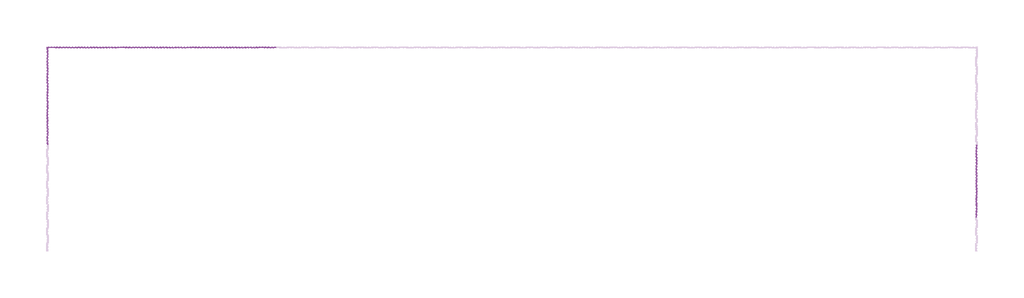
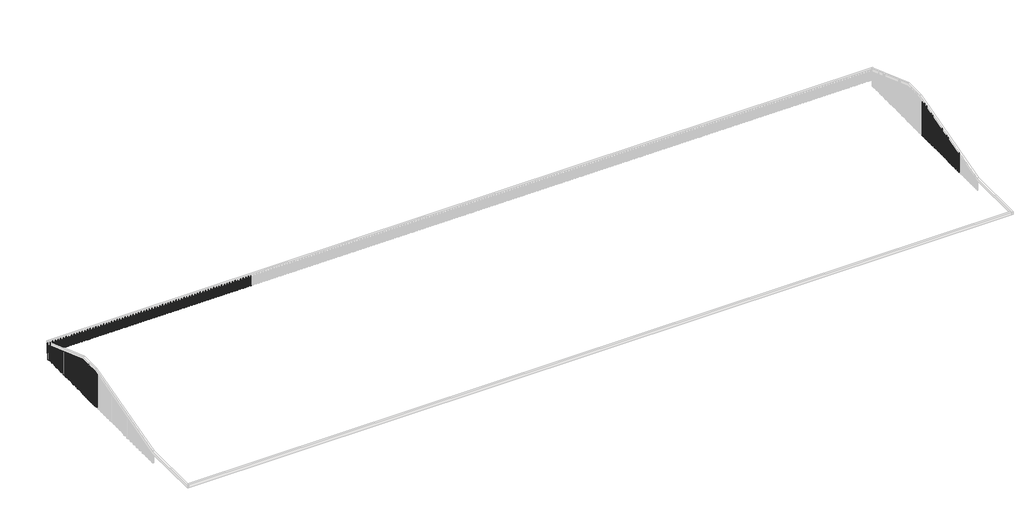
# One storey, part 4 of 6: 132 proxies.
"""IFC4 building model written with IfcOpenShell, lengths in millimetres."""

from ifc_helpers import new_model, si_unit, origin, place, context, project, spatial, transform, mapped, element, save
from components import generic_models_7553901d, generic_models_a74f638f, generic_models_eddb28b0, generic_models_b851e550, generic_models_f981eec5, generic_models_fa2cd2e8, generic_models_5c6d3e61, generic_models_5d25678b, generic_models_d380ba2e, generic_models_831c492c, generic_models_77be9fe8, generic_models_16d24312, generic_models_3141a809, generic_models_ca3dce07, generic_models_dd665d03, generic_models_896a7e0f

model = new_model("IFC4")

# Units and contexts
model_context = context("Model", 3, world=origin())
ifc_project = project(units=[si_unit("LENGTHUNIT", "METRE", prefix="MILLI")], contexts=[model_context])

# Site, building, storey
site = spatial("IfcSite", under=ifc_project)
building = spatial("IfcBuilding", under=site)
storey = spatial("IfcBuildingStorey", under=building, Name="矢板", Elevation=0.0)

# Proxies
placement = place(None, origin())
generic_models_shape = generic_models_7553901d(model_context)
element("IfcBuildingElementProxy", 1, Name="鋼矢板10H型 : 鋼矢板10H型", ObjectType="鋼矢板10H型 : 鋼矢板10H型", at=placement, inside=storey, context=model_context, shape_type="MappedRepresentation", body=[
    mapped(generic_models_shape, transform((-60502.5, 28702.0, 7600.0), x_axis=(1.0, 0.0, 0.0), y_axis=(0.0, 1.0, 0.0), z_axis=(0.0, 0.0, 1.0))),
])
element("IfcBuildingElementProxy", 2, Name="鋼矢板10H型 : 鋼矢板10H型", ObjectType="鋼矢板10H型 : 鋼矢板10H型", at=placement, inside=storey, context=model_context, shape_type="MappedRepresentation", body=[
    mapped(generic_models_shape, transform((-61402.5, 28702.0, 7600.0), x_axis=(1.0, 0.0, 0.0), y_axis=(0.0, 1.0, 0.0), z_axis=(0.0, 0.0, 1.0))),
])
element("IfcBuildingElementProxy", 3, Name="鋼矢板10H型 : 鋼矢板10H型", ObjectType="鋼矢板10H型 : 鋼矢板10H型", at=placement, inside=storey, context=model_context, shape_type="MappedRepresentation", body=[
    mapped(generic_models_shape, transform((-62302.5, 28702.0, 7600.0), x_axis=(1.0, 0.0, 0.0), y_axis=(0.0, 1.0, 0.0), z_axis=(0.0, 0.0, 1.0))),
])
element("IfcBuildingElementProxy", 4, Name="鋼矢板10H型 : 鋼矢板10H型", ObjectType="鋼矢板10H型 : 鋼矢板10H型", at=placement, inside=storey, context=model_context, shape_type="MappedRepresentation", body=[
    mapped(generic_models_shape, transform((-63202.5, 28702.0, 7600.0), x_axis=(1.0, 0.0, 0.0), y_axis=(0.0, 1.0, 0.0), z_axis=(0.0, 0.0, 1.0))),
])
element("IfcBuildingElementProxy", 5, Name="鋼矢板10H型 : 鋼矢板10H型", ObjectType="鋼矢板10H型 : 鋼矢板10H型", at=placement, inside=storey, context=model_context, shape_type="MappedRepresentation", body=[
    mapped(generic_models_shape, transform((-64102.5, 28702.0, 7600.0), x_axis=(1.0, 0.0, 0.0), y_axis=(0.0, 1.0, 0.0), z_axis=(0.0, 0.0, 1.0))),
])
element("IfcBuildingElementProxy", 6, Name="鋼矢板10H型 : 鋼矢板10H型", ObjectType="鋼矢板10H型 : 鋼矢板10H型", at=placement, inside=storey, context=model_context, shape_type="MappedRepresentation", body=[
    mapped(generic_models_shape, transform((-65002.5, 28702.0, 7600.0), x_axis=(1.0, 0.0, 0.0), y_axis=(0.0, 1.0, 0.0), z_axis=(0.0, 0.0, 1.0))),
])
element("IfcBuildingElementProxy", 7, Name="鋼矢板10H型 : 鋼矢板10H型", ObjectType="鋼矢板10H型 : 鋼矢板10H型", at=placement, inside=storey, context=model_context, shape_type="MappedRepresentation", body=[
    mapped(generic_models_shape, transform((-65902.5, 28702.0, 7600.0), x_axis=(1.0, 0.0, 0.0), y_axis=(0.0, 1.0, 0.0), z_axis=(0.0, 0.0, 1.0))),
])
element("IfcBuildingElementProxy", 8, Name="鋼矢板10H型 : 鋼矢板10H型", ObjectType="鋼矢板10H型 : 鋼矢板10H型", at=placement, inside=storey, context=model_context, shape_type="MappedRepresentation", body=[
    mapped(generic_models_shape, transform((-66802.5, 28702.0, 7600.0), x_axis=(1.0, 0.0, 0.0), y_axis=(0.0, 1.0, 0.0), z_axis=(0.0, 0.0, 1.0))),
])
element("IfcBuildingElementProxy", 9, Name="鋼矢板10H型 : 鋼矢板10H型", ObjectType="鋼矢板10H型 : 鋼矢板10H型", at=placement, inside=storey, context=model_context, shape_type="MappedRepresentation", body=[
    mapped(generic_models_shape, transform((-67702.5, 28702.0, 7600.0), x_axis=(1.0, 0.0, 0.0), y_axis=(0.0, 1.0, 0.0), z_axis=(0.0, 0.0, 1.0))),
])
element("IfcBuildingElementProxy", 10, Name="鋼矢板10H型 : 鋼矢板10H型", ObjectType="鋼矢板10H型 : 鋼矢板10H型", at=placement, inside=storey, context=model_context, shape_type="MappedRepresentation", body=[
    mapped(generic_models_shape, transform((-68602.5, 28702.0, 7600.0), x_axis=(1.0, 0.0, 0.0), y_axis=(0.0, 1.0, 0.0), z_axis=(0.0, 0.0, 1.0))),
])
element("IfcBuildingElementProxy", 11, Name="鋼矢板10H型 : 鋼矢板10H型", ObjectType="鋼矢板10H型 : 鋼矢板10H型", at=placement, inside=storey, context=model_context, shape_type="MappedRepresentation", body=[
    mapped(generic_models_shape, transform((-69502.5, 28702.0, 7600.0), x_axis=(1.0, 0.0, 0.0), y_axis=(0.0, 1.0, 0.0), z_axis=(0.0, 0.0, 1.0))),
])
element("IfcBuildingElementProxy", 12, Name="鋼矢板10H型 : 鋼矢板10H型", ObjectType="鋼矢板10H型 : 鋼矢板10H型", at=placement, inside=storey, context=model_context, shape_type="MappedRepresentation", body=[
    mapped(generic_models_shape, transform((-70402.5, 28702.0, 7600.0), x_axis=(1.0, 0.0, 0.0), y_axis=(0.0, 1.0, 0.0), z_axis=(0.0, 0.0, 1.0))),
])
element("IfcBuildingElementProxy", 13, Name="鋼矢板10H型 : 鋼矢板10H型", ObjectType="鋼矢板10H型 : 鋼矢板10H型", at=placement, inside=storey, context=model_context, shape_type="MappedRepresentation", body=[
    mapped(generic_models_shape, transform((-71302.5, 28702.0, 7600.0), x_axis=(1.0, 0.0, 0.0), y_axis=(0.0, 1.0, 0.0), z_axis=(0.0, 0.0, 1.0))),
])
element("IfcBuildingElementProxy", 14, Name="鋼矢板10H型 : 鋼矢板10H型", ObjectType="鋼矢板10H型 : 鋼矢板10H型", at=placement, inside=storey, context=model_context, shape_type="MappedRepresentation", body=[
    mapped(generic_models_shape, transform((-72202.5, 28702.0, 7600.0), x_axis=(1.0, 0.0, 0.0), y_axis=(0.0, 1.0, 0.0), z_axis=(0.0, 0.0, 1.0))),
])
element("IfcBuildingElementProxy", 15, Name="鋼矢板10H型 : 鋼矢板10H型", ObjectType="鋼矢板10H型 : 鋼矢板10H型", at=placement, inside=storey, context=model_context, shape_type="MappedRepresentation", body=[
    mapped(generic_models_shape, transform((-73102.5, 28702.0, 7600.0), x_axis=(1.0, 0.0, 0.0), y_axis=(0.0, 1.0, 0.0), z_axis=(0.0, 0.0, 1.0))),
])
element("IfcBuildingElementProxy", 16, Name="鋼矢板10H型 : 鋼矢板10H型", ObjectType="鋼矢板10H型 : 鋼矢板10H型", at=placement, inside=storey, context=model_context, shape_type="MappedRepresentation", body=[
    mapped(generic_models_shape, transform((-74002.5, 28702.0, 7600.0), x_axis=(1.0, 0.0, 0.0), y_axis=(0.0, 1.0, 0.0), z_axis=(0.0, 0.0, 1.0))),
])
element("IfcBuildingElementProxy", 17, Name="鋼矢板10H型 : 鋼矢板10H型", ObjectType="鋼矢板10H型 : 鋼矢板10H型", at=placement, inside=storey, context=model_context, shape_type="MappedRepresentation", body=[
    mapped(generic_models_shape, transform((-74902.5, 28702.0, 7600.0), x_axis=(1.0, 0.0, 0.0), y_axis=(0.0, 1.0, 0.0), z_axis=(0.0, 0.0, 1.0))),
])
element("IfcBuildingElementProxy", 18, Name="鋼矢板10H型 : 鋼矢板10H型", ObjectType="鋼矢板10H型 : 鋼矢板10H型", at=placement, inside=storey, context=model_context, shape_type="MappedRepresentation", body=[
    mapped(generic_models_shape, transform((-75802.5, 28702.0, 7600.0), x_axis=(1.0, 0.0, 0.0), y_axis=(0.0, 1.0, 0.0), z_axis=(0.0, 0.0, 1.0))),
])
element("IfcBuildingElementProxy", 19, Name="鋼矢板10H型 : 鋼矢板10H型", ObjectType="鋼矢板10H型 : 鋼矢板10H型", at=placement, inside=storey, context=model_context, shape_type="MappedRepresentation", body=[
    mapped(generic_models_shape, transform((-76702.5, 28702.0, 7600.0), x_axis=(1.0, 0.0, 0.0), y_axis=(0.0, 1.0, 0.0), z_axis=(0.0, 0.0, 1.0))),
])
element("IfcBuildingElementProxy", 20, Name="鋼矢板10H型 : 鋼矢板10H型", ObjectType="鋼矢板10H型 : 鋼矢板10H型", at=placement, inside=storey, context=model_context, shape_type="MappedRepresentation", body=[
    mapped(generic_models_shape, transform((-77602.5, 28702.0, 7600.0), x_axis=(1.0, 0.0, 0.0), y_axis=(0.0, 1.0, 0.0), z_axis=(0.0, 0.0, 1.0))),
])
element("IfcBuildingElementProxy", 21, Name="鋼矢板10H型 : 鋼矢板10H型", ObjectType="鋼矢板10H型 : 鋼矢板10H型", at=placement, inside=storey, context=model_context, shape_type="MappedRepresentation", body=[
    mapped(generic_models_shape, transform((-78502.5, 28702.0, 7600.0), x_axis=(1.0, 0.0, 0.0), y_axis=(0.0, 1.0, 0.0), z_axis=(0.0, 0.0, 1.0))),
])
element("IfcBuildingElementProxy", 22, Name="鋼矢板10H型 : 鋼矢板10H型", ObjectType="鋼矢板10H型 : 鋼矢板10H型", at=placement, inside=storey, context=model_context, shape_type="MappedRepresentation", body=[
    mapped(generic_models_shape, transform((-79402.5, 28702.0, 7600.0), x_axis=(1.0, 0.0, 0.0), y_axis=(0.0, 1.0, 0.0), z_axis=(0.0, 0.0, 1.0))),
])
element("IfcBuildingElementProxy", 23, Name="鋼矢板10H型 : 鋼矢板10H型", ObjectType="鋼矢板10H型 : 鋼矢板10H型", at=placement, inside=storey, context=model_context, shape_type="MappedRepresentation", body=[
    mapped(generic_models_shape, transform((-80302.5, 28702.0, 7600.0), x_axis=(1.0, 0.0, 0.0), y_axis=(0.0, 1.0, 0.0), z_axis=(0.0, 0.0, 1.0))),
])
element("IfcBuildingElementProxy", 24, Name="鋼矢板10H型 : 鋼矢板10H型", ObjectType="鋼矢板10H型 : 鋼矢板10H型", at=placement, inside=storey, context=model_context, shape_type="MappedRepresentation", body=[
    mapped(generic_models_shape, transform((-81202.5, 28702.0, 7600.0), x_axis=(1.0, 0.0, 0.0), y_axis=(0.0, 1.0, 0.0), z_axis=(0.0, 0.0, 1.0))),
])
element("IfcBuildingElementProxy", 25, Name="鋼矢板10H型 : 鋼矢板10H型", ObjectType="鋼矢板10H型 : 鋼矢板10H型", at=placement, inside=storey, context=model_context, shape_type="MappedRepresentation", body=[
    mapped(generic_models_shape, transform((-82102.5, 28702.0, 7600.0), x_axis=(1.0, 0.0, 0.0), y_axis=(0.0, 1.0, 0.0), z_axis=(0.0, 0.0, 1.0))),
])
element("IfcBuildingElementProxy", 26, Name="鋼矢板10H型 : 鋼矢板10H型", ObjectType="鋼矢板10H型 : 鋼矢板10H型", at=placement, inside=storey, context=model_context, shape_type="MappedRepresentation", body=[
    mapped(generic_models_shape, transform((-83002.5, 28702.0, 7600.0), x_axis=(1.0, 0.0, 0.0), y_axis=(0.0, 1.0, 0.0), z_axis=(0.0, 0.0, 1.0))),
])
element("IfcBuildingElementProxy", 27, Name="鋼矢板10H型 : 鋼矢板10H型", ObjectType="鋼矢板10H型 : 鋼矢板10H型", at=placement, inside=storey, context=model_context, shape_type="MappedRepresentation", body=[
    mapped(generic_models_shape, transform((-83902.5, 28702.0, 7600.0), x_axis=(1.0, 0.0, 0.0), y_axis=(0.0, 1.0, 0.0), z_axis=(0.0, 0.0, 1.0))),
])
element("IfcBuildingElementProxy", 28, Name="鋼矢板10H型 : 鋼矢板10H型", ObjectType="鋼矢板10H型 : 鋼矢板10H型", at=placement, inside=storey, context=model_context, shape_type="MappedRepresentation", body=[
    mapped(generic_models_shape, transform((-84802.5, 28702.0, 7600.0), x_axis=(1.0, 0.0, 0.0), y_axis=(0.0, 1.0, 0.0), z_axis=(0.0, 0.0, 1.0))),
])
element("IfcBuildingElementProxy", 29, Name="鋼矢板10H型 : 鋼矢板10H型", ObjectType="鋼矢板10H型 : 鋼矢板10H型", at=placement, inside=storey, context=model_context, shape_type="MappedRepresentation", body=[
    mapped(generic_models_shape, transform((-85702.5, 28702.0, 7600.0), x_axis=(1.0, 0.0, 0.0), y_axis=(0.0, 1.0, 0.0), z_axis=(0.0, 0.0, 1.0))),
])
element("IfcBuildingElementProxy", 30, Name="鋼矢板10H型 : 鋼矢板10H型", ObjectType="鋼矢板10H型 : 鋼矢板10H型", at=placement, inside=storey, context=model_context, shape_type="MappedRepresentation", body=[
    mapped(generic_models_shape, transform((-86602.5, 28702.0, 7600.0), x_axis=(1.0, 0.0, 0.0), y_axis=(0.0, 1.0, 0.0), z_axis=(0.0, 0.0, 1.0))),
])
element("IfcBuildingElementProxy", 31, Name="鋼矢板10H型 : 鋼矢板10H型", ObjectType="鋼矢板10H型 : 鋼矢板10H型", at=placement, inside=storey, context=model_context, shape_type="MappedRepresentation", body=[
    mapped(generic_models_shape, transform((-87502.5, 28702.0, 7600.0), x_axis=(1.0, 0.0, 0.0), y_axis=(0.0, 1.0, 0.0), z_axis=(0.0, 0.0, 1.0))),
])
element("IfcBuildingElementProxy", 32, Name="鋼矢板10H型 : 鋼矢板10H型", ObjectType="鋼矢板10H型 : 鋼矢板10H型", at=placement, inside=storey, context=model_context, shape_type="MappedRepresentation", body=[
    mapped(generic_models_shape, transform((-88402.5, 28702.0, 7600.0), x_axis=(1.0, 0.0, 0.0), y_axis=(0.0, 1.0, 0.0), z_axis=(0.0, 0.0, 1.0))),
])
element("IfcBuildingElementProxy", 33, Name="鋼矢板10H型 : 鋼矢板10H型", ObjectType="鋼矢板10H型 : 鋼矢板10H型", at=placement, inside=storey, context=model_context, shape_type="MappedRepresentation", body=[
    mapped(generic_models_shape, transform((-89302.5, 28702.0, 7600.0), x_axis=(1.0, 0.0, 0.0), y_axis=(0.0, 1.0, 0.0), z_axis=(0.0, 0.0, 1.0))),
])
element("IfcBuildingElementProxy", 34, Name="鋼矢板10H型 : 鋼矢板10H型", ObjectType="鋼矢板10H型 : 鋼矢板10H型", at=placement, inside=storey, context=model_context, shape_type="MappedRepresentation", body=[
    mapped(generic_models_shape, transform((-90202.5, 28702.0, 7600.0), x_axis=(1.0, 0.0, 0.0), y_axis=(0.0, 1.0, 0.0), z_axis=(0.0, 0.0, 1.0))),
])
element("IfcBuildingElementProxy", 35, Name="鋼矢板10H型 : 鋼矢板10H型", ObjectType="鋼矢板10H型 : 鋼矢板10H型", at=placement, inside=storey, context=model_context, shape_type="MappedRepresentation", body=[
    mapped(generic_models_shape, transform((-91102.5, 28702.0, 7600.0), x_axis=(1.0, 0.0, 0.0), y_axis=(0.0, 1.0, 0.0), z_axis=(0.0, 0.0, 1.0))),
])
element("IfcBuildingElementProxy", 36, Name="鋼矢板10H型 : 鋼矢板10H型", ObjectType="鋼矢板10H型 : 鋼矢板10H型", at=placement, inside=storey, context=model_context, shape_type="MappedRepresentation", body=[
    mapped(generic_models_shape, transform((-92002.5, 28702.0, 7600.0), x_axis=(1.0, 0.0, 0.0), y_axis=(0.0, 1.0, 0.0), z_axis=(0.0, 0.0, 1.0))),
])
element("IfcBuildingElementProxy", 37, Name="鋼矢板10H型 : 鋼矢板10H型", ObjectType="鋼矢板10H型 : 鋼矢板10H型", at=placement, inside=storey, context=model_context, shape_type="MappedRepresentation", body=[
    mapped(generic_models_shape, transform((-92902.5, 28702.0, 7600.0), x_axis=(1.0, 0.0, 0.0), y_axis=(0.0, 1.0, 0.0), z_axis=(0.0, 0.0, 1.0))),
])
element("IfcBuildingElementProxy", 38, Name="鋼矢板10H型 : 鋼矢板10H型", ObjectType="鋼矢板10H型 : 鋼矢板10H型", at=placement, inside=storey, context=model_context, shape_type="MappedRepresentation", body=[
    mapped(generic_models_shape, transform((-93802.5, 28702.0, 7600.0), x_axis=(1.0, 0.0, 0.0), y_axis=(0.0, 1.0, 0.0), z_axis=(0.0, 0.0, 1.0))),
])
element("IfcBuildingElementProxy", 39, Name="鋼矢板10H型 : 鋼矢板10H型", ObjectType="鋼矢板10H型 : 鋼矢板10H型", at=placement, inside=storey, context=model_context, shape_type="MappedRepresentation", body=[
    mapped(generic_models_shape, transform((-94702.5, 28702.0, 7600.0), x_axis=(1.0, 0.0, 0.0), y_axis=(0.0, 1.0, 0.0), z_axis=(0.0, 0.0, 1.0))),
])
element("IfcBuildingElementProxy", 40, Name="鋼矢板10H型 : 鋼矢板10H型", ObjectType="鋼矢板10H型 : 鋼矢板10H型", at=placement, inside=storey, context=model_context, shape_type="MappedRepresentation", body=[
    mapped(generic_models_shape, transform((-95602.5, 28702.0, 7600.0), x_axis=(1.0, 0.0, 0.0), y_axis=(0.0, 1.0, 0.0), z_axis=(0.0, 0.0, 1.0))),
])
element("IfcBuildingElementProxy", 41, Name="鋼矢板10H型 : 鋼矢板10H型", ObjectType="鋼矢板10H型 : 鋼矢板10H型", at=placement, inside=storey, context=model_context, shape_type="MappedRepresentation", body=[
    mapped(generic_models_shape, transform((-96502.5, 28702.0, 7600.0), x_axis=(1.0, 0.0, 0.0), y_axis=(0.0, 1.0, 0.0), z_axis=(0.0, 0.0, 1.0))),
])
element("IfcBuildingElementProxy", 42, Name="鋼矢板10H型 : 鋼矢板10H型", ObjectType="鋼矢板10H型 : 鋼矢板10H型", at=placement, inside=storey, context=model_context, shape_type="MappedRepresentation", body=[
    mapped(generic_models_shape, transform((-97402.5, 28702.0, 7600.0), x_axis=(1.0, 0.0, 0.0), y_axis=(0.0, 1.0, 0.0), z_axis=(0.0, 0.0, 1.0))),
])
element("IfcBuildingElementProxy", 43, Name="鋼矢板10H型 : 鋼矢板10H型", ObjectType="鋼矢板10H型 : 鋼矢板10H型", at=placement, inside=storey, context=model_context, shape_type="MappedRepresentation", body=[
    mapped(generic_models_shape, transform((-98302.5, 28702.0, 7600.0), x_axis=(1.0, 0.0, 0.0), y_axis=(0.0, 1.0, 0.0), z_axis=(0.0, 0.0, 1.0))),
])
element("IfcBuildingElementProxy", 44, Name="鋼矢板10H型 : 鋼矢板10H型", ObjectType="鋼矢板10H型 : 鋼矢板10H型", at=placement, inside=storey, context=model_context, shape_type="MappedRepresentation", body=[
    mapped(generic_models_shape, transform((-99202.5, 28702.0, 7600.0), x_axis=(1.0, 0.0, 0.0), y_axis=(0.0, 1.0, 0.0), z_axis=(0.0, 0.0, 1.0))),
])
element("IfcBuildingElementProxy", 45, Name="鋼矢板10H型 : 鋼矢板10H型", ObjectType="鋼矢板10H型 : 鋼矢板10H型", at=placement, inside=storey, context=model_context, shape_type="MappedRepresentation", body=[
    mapped(generic_models_shape, transform((-100102.5, 28702.0, 7600.0), x_axis=(1.0, 0.0, 0.0), y_axis=(0.0, 1.0, 0.0), z_axis=(0.0, 0.0, 1.0))),
])
element("IfcBuildingElementProxy", 46, Name="鋼矢板10H型 : 鋼矢板10H型", ObjectType="鋼矢板10H型 : 鋼矢板10H型", at=placement, inside=storey, context=model_context, shape_type="MappedRepresentation", body=[
    mapped(generic_models_shape, transform((-101002.5, 28702.0, 7600.0), x_axis=(1.0, 0.0, 0.0), y_axis=(0.0, 1.0, 0.0), z_axis=(0.0, 0.0, 1.0))),
])
element("IfcBuildingElementProxy", 47, Name="鋼矢板10H型 : 鋼矢板10H型", ObjectType="鋼矢板10H型 : 鋼矢板10H型", at=placement, inside=storey, context=model_context, shape_type="MappedRepresentation", body=[
    mapped(generic_models_shape, transform((-101902.5, 28702.0, 7600.0), x_axis=(1.0, 0.0, 0.0), y_axis=(0.0, 1.0, 0.0), z_axis=(0.0, 0.0, 1.0))),
])
element("IfcBuildingElementProxy", 48, Name="鋼矢板10H型 : 鋼矢板10H型", ObjectType="鋼矢板10H型 : 鋼矢板10H型", at=placement, inside=storey, context=model_context, shape_type="MappedRepresentation", body=[
    mapped(generic_models_shape, transform((-102802.5, 28702.0, 7600.0), x_axis=(1.0, 0.0, 0.0), y_axis=(0.0, 1.0, 0.0), z_axis=(0.0, 0.0, 1.0))),
])
element("IfcBuildingElementProxy", 49, Name="鋼矢板10H型 : 鋼矢板10H型", ObjectType="鋼矢板10H型 : 鋼矢板10H型", at=placement, inside=storey, context=model_context, shape_type="MappedRepresentation", body=[
    mapped(generic_models_shape, transform((-103702.5, 28702.0, 7600.0), x_axis=(1.0, 0.0, 0.0), y_axis=(0.0, 1.0, 0.0), z_axis=(0.0, 0.0, 1.0))),
])
element("IfcBuildingElementProxy", 50, Name="鋼矢板10H型 : 鋼矢板10H型", ObjectType="鋼矢板10H型 : 鋼矢板10H型", at=placement, inside=storey, context=model_context, shape_type="MappedRepresentation", body=[
    mapped(generic_models_shape, transform((-104602.5, 28702.0, 7600.0), x_axis=(1.0, 0.0, 0.0), y_axis=(0.0, 1.0, 0.0), z_axis=(0.0, 0.0, 1.0))),
])
element("IfcBuildingElementProxy", 51, Name="鋼矢板10H型 : 鋼矢板10H型", ObjectType="鋼矢板10H型 : 鋼矢板10H型", at=placement, inside=storey, context=model_context, shape_type="MappedRepresentation", body=[
    mapped(generic_models_shape, transform((-105502.5, 28702.0, 7600.0), x_axis=(1.0, 0.0, 0.0), y_axis=(0.0, 1.0, 0.0), z_axis=(0.0, 0.0, 1.0))),
])
element("IfcBuildingElementProxy", 52, Name="鋼矢板10H型 : 鋼矢板10H型", ObjectType="鋼矢板10H型 : 鋼矢板10H型", at=placement, inside=storey, context=model_context, shape_type="MappedRepresentation", body=[
    mapped(generic_models_shape, transform((-106402.5, 28702.0, 7600.0), x_axis=(1.0, 0.0, 0.0), y_axis=(0.0, 1.0, 0.0), z_axis=(0.0, 0.0, 1.0))),
])
element("IfcBuildingElementProxy", 53, Name="鋼矢板10H型 : 鋼矢板10H型", ObjectType="鋼矢板10H型 : 鋼矢板10H型", at=placement, inside=storey, context=model_context, shape_type="MappedRepresentation", body=[
    mapped(generic_models_shape, transform((-107302.5, 28702.0, 7600.0), x_axis=(1.0, 0.0, 0.0), y_axis=(0.0, 1.0, 0.0), z_axis=(0.0, 0.0, 1.0))),
])
element("IfcBuildingElementProxy", 54, Name="鋼矢板10H型 : 鋼矢板10H型", ObjectType="鋼矢板10H型 : 鋼矢板10H型", at=placement, inside=storey, context=model_context, shape_type="MappedRepresentation", body=[
    mapped(generic_models_shape, transform((-108202.5, 28702.0, 7600.0), x_axis=(1.0, 0.0, 0.0), y_axis=(0.0, 1.0, 0.0), z_axis=(0.0, 0.0, 1.0))),
])
element("IfcBuildingElementProxy", 55, Name="鋼矢板10H型 : 鋼矢板10H型", ObjectType="鋼矢板10H型 : 鋼矢板10H型", at=placement, inside=storey, context=model_context, shape_type="MappedRepresentation", body=[
    mapped(generic_models_shape, transform((-109102.5, 28702.0, 7600.0), x_axis=(1.0, 0.0, 0.0), y_axis=(0.0, 1.0, 0.0), z_axis=(0.0, 0.0, 1.0))),
])
element("IfcBuildingElementProxy", 56, Name="鋼矢板10H型 : 鋼矢板10H型", ObjectType="鋼矢板10H型 : 鋼矢板10H型", at=placement, inside=storey, context=model_context, shape_type="MappedRepresentation", body=[
    mapped(generic_models_shape, transform((-110002.5, 28702.0, 7600.0), x_axis=(1.0, 0.0, 0.0), y_axis=(0.0, 1.0, 0.0), z_axis=(0.0, 0.0, 1.0))),
])
element("IfcBuildingElementProxy", 57, Name="鋼矢板10H型 : 鋼矢板10H型", ObjectType="鋼矢板10H型 : 鋼矢板10H型", at=placement, inside=storey, context=model_context, shape_type="MappedRepresentation", body=[
    mapped(generic_models_shape, transform((-110902.5, 28702.0, 7600.0), x_axis=(1.0, 0.0, 0.0), y_axis=(0.0, 1.0, 0.0), z_axis=(0.0, 0.0, 1.0))),
])
element("IfcBuildingElementProxy", 58, Name="鋼矢板10H型 : 鋼矢板10H型", ObjectType="鋼矢板10H型 : 鋼矢板10H型", at=placement, inside=storey, context=model_context, shape_type="MappedRepresentation", body=[
    mapped(generic_models_shape, transform((-111802.5, 28702.0, 7600.0), x_axis=(1.0, 0.0, 0.0), y_axis=(0.0, 1.0, 0.0), z_axis=(0.0, 0.0, 1.0))),
])
element("IfcBuildingElementProxy", 59, Name="鋼矢板10H型 : 鋼矢板10H型", ObjectType="鋼矢板10H型 : 鋼矢板10H型", at=placement, inside=storey, context=model_context, shape_type="MappedRepresentation", body=[
    mapped(generic_models_shape, transform((-112702.5, 28702.0, 7600.0), x_axis=(1.0, 0.0, 0.0), y_axis=(0.0, 1.0, 0.0), z_axis=(0.0, 0.0, 1.0))),
])
element("IfcBuildingElementProxy", 60, Name="鋼矢板10H型 : 鋼矢板10H型", ObjectType="鋼矢板10H型 : 鋼矢板10H型", at=placement, inside=storey, context=model_context, shape_type="MappedRepresentation", body=[
    mapped(generic_models_shape, transform((-113602.5, 28702.0, 7600.0), x_axis=(1.0, 0.0, 0.0), y_axis=(0.0, 1.0, 0.0), z_axis=(0.0, 0.0, 1.0))),
])
element("IfcBuildingElementProxy", 61, Name="鋼矢板10H型 : 鋼矢板10H型", ObjectType="鋼矢板10H型 : 鋼矢板10H型", at=placement, inside=storey, context=model_context, shape_type="MappedRepresentation", body=[
    mapped(generic_models_shape, transform((-114502.5, 28702.0, 7600.0), x_axis=(1.0, 0.0, 0.0), y_axis=(0.0, 1.0, 0.0), z_axis=(0.0, 0.0, 1.0))),
])
element("IfcBuildingElementProxy", 62, Name="鋼矢板10H型 : 鋼矢板10H型", ObjectType="鋼矢板10H型 : 鋼矢板10H型", at=placement, inside=storey, context=model_context, shape_type="MappedRepresentation", body=[
    mapped(generic_models_shape, transform((-115402.5, 28702.0, 7600.0), x_axis=(1.0, 0.0, 0.0), y_axis=(0.0, 1.0, 0.0), z_axis=(0.0, 0.0, 1.0))),
])
element("IfcBuildingElementProxy", 63, Name="鋼矢板10H型 : 鋼矢板10H型", ObjectType="鋼矢板10H型 : 鋼矢板10H型", at=placement, inside=storey, context=model_context, shape_type="MappedRepresentation", body=[
    mapped(generic_models_shape, transform((-116302.5, 28702.0, 7600.0), x_axis=(1.0, 0.0, 0.0), y_axis=(0.0, 1.0, 0.0), z_axis=(0.0, 0.0, 1.0))),
])
element("IfcBuildingElementProxy", 64, Name="鋼矢板10H型 : 鋼矢板10H型", ObjectType="鋼矢板10H型 : 鋼矢板10H型", at=placement, inside=storey, context=model_context, shape_type="MappedRepresentation", body=[
    mapped(generic_models_shape, transform((-117202.5, 28702.0, 7600.0), x_axis=(1.0, 0.0, 0.0), y_axis=(0.0, 1.0, 0.0), z_axis=(0.0, 0.0, 1.0))),
])
element("IfcBuildingElementProxy", 65, Name="鋼矢板10H型 : 鋼矢板10H型", ObjectType="鋼矢板10H型 : 鋼矢板10H型", at=placement, inside=storey, context=model_context, shape_type="MappedRepresentation", body=[
    mapped(generic_models_shape, transform((-118102.5, 28702.0, 7600.0), x_axis=(1.0, 0.0, 0.0), y_axis=(0.0, 1.0, 0.0), z_axis=(0.0, 0.0, 1.0))),
])
element("IfcBuildingElementProxy", 66, Name="鋼矢板10H型 : 鋼矢板10H型", ObjectType="鋼矢板10H型 : 鋼矢板10H型", at=placement, inside=storey, context=model_context, shape_type="MappedRepresentation", body=[
    mapped(generic_models_shape, transform((-119002.5, 28702.0, 7600.0), x_axis=(1.0, 0.0, 0.0), y_axis=(0.0, 1.0, 0.0), z_axis=(0.0, 0.0, 1.0))),
])
element("IfcBuildingElementProxy", 67, Name="鋼矢板10H型 : 鋼矢板10H型", ObjectType="鋼矢板10H型 : 鋼矢板10H型", at=placement, inside=storey, context=model_context, shape_type="MappedRepresentation", body=[
    mapped(generic_models_shape, transform((-119902.5, 28702.0, 7600.0), x_axis=(1.0, 0.0, 0.0), y_axis=(0.0, 1.0, 0.0), z_axis=(0.0, 0.0, 1.0))),
])
element("IfcBuildingElementProxy", 68, Name="鋼矢板10H型 : 鋼矢板10H型", ObjectType="鋼矢板10H型 : 鋼矢板10H型", at=placement, inside=storey, context=model_context, shape_type="MappedRepresentation", body=[
    mapped(generic_models_shape, transform((-120802.5, 28702.0, 7600.0), x_axis=(1.0, 0.0, 0.0), y_axis=(0.0, 1.0, 0.0), z_axis=(0.0, 0.0, 1.0))),
])
element("IfcBuildingElementProxy", 69, Name="鋼矢板10H型 : 鋼矢板10H型", ObjectType="鋼矢板10H型 : 鋼矢板10H型", at=placement, inside=storey, context=model_context, shape_type="MappedRepresentation", body=[
    mapped(generic_models_shape, transform((-121702.5, 28702.0, 7600.0), x_axis=(1.0, 0.0, 0.0), y_axis=(0.0, 1.0, 0.0), z_axis=(0.0, 0.0, 1.0))),
])
element("IfcBuildingElementProxy", 70, Name="鋼矢板10H型 : 鋼矢板10H型", ObjectType="鋼矢板10H型 : 鋼矢板10H型", at=placement, inside=storey, context=model_context, shape_type="MappedRepresentation", body=[
    mapped(generic_models_shape, transform((-122602.5, 28702.0, 7600.0), x_axis=(1.0, 0.0, 0.0), y_axis=(0.0, 1.0, 0.0), z_axis=(0.0, 0.0, 1.0))),
])
element("IfcBuildingElementProxy", 71, Name="鋼矢板10H型 : 鋼矢板10H型", ObjectType="鋼矢板10H型 : 鋼矢板10H型", at=placement, inside=storey, context=model_context, shape_type="MappedRepresentation", body=[
    mapped(generic_models_shape, transform((-123502.5, 28702.0, 7600.0), x_axis=(1.0, 0.0, 0.0), y_axis=(0.0, 1.0, 0.0), z_axis=(0.0, 0.0, 1.0))),
])
element("IfcBuildingElementProxy", 72, Name="鋼矢板10H型 : 鋼矢板10H型", ObjectType="鋼矢板10H型 : 鋼矢板10H型", at=placement, inside=storey, context=model_context, shape_type="MappedRepresentation", body=[
    mapped(generic_models_shape, transform((-124402.5, 28702.0, 7600.0), x_axis=(1.0, 0.0, 0.0), y_axis=(0.0, 1.0, 0.0), z_axis=(0.0, 0.0, 1.0))),
])
element("IfcBuildingElementProxy", 73, Name="鋼矢板10H型 : 鋼矢板10H型", ObjectType="鋼矢板10H型 : 鋼矢板10H型", at=placement, inside=storey, context=model_context, shape_type="MappedRepresentation", body=[
    mapped(generic_models_shape, transform((-125302.5, 28702.0, 7600.0), x_axis=(1.0, 0.0, 0.0), y_axis=(0.0, 1.0, 0.0), z_axis=(0.0, 0.0, 1.0))),
])
element("IfcBuildingElementProxy", 74, Name="鋼矢板10H型 : 鋼矢板10H型", ObjectType="鋼矢板10H型 : 鋼矢板10H型", at=placement, inside=storey, context=model_context, shape_type="MappedRepresentation", body=[
    mapped(generic_models_shape, transform((-126202.5, 28702.0, 7600.0), x_axis=(1.0, 0.0, 0.0), y_axis=(0.0, 1.0, 0.0), z_axis=(0.0, 0.0, 1.0))),
])
element("IfcBuildingElementProxy", 75, Name="鋼矢板10H型 : 鋼矢板10H型", ObjectType="鋼矢板10H型 : 鋼矢板10H型", at=placement, inside=storey, context=model_context, shape_type="MappedRepresentation", body=[
    mapped(generic_models_shape, transform((-127102.5, 28702.0, 7600.0), x_axis=(1.0, 0.0, 0.0), y_axis=(0.0, 1.0, 0.0), z_axis=(0.0, 0.0, 1.0))),
])
element("IfcBuildingElementProxy", 76, Name="鋼矢板10H型 : 鋼矢板10H型", ObjectType="鋼矢板10H型 : 鋼矢板10H型", at=placement, inside=storey, context=model_context, shape_type="MappedRepresentation", body=[
    mapped(generic_models_shape, transform((-128002.5, 28702.0, 7600.0), x_axis=(1.0, 0.0, 0.0), y_axis=(0.0, 1.0, 0.0), z_axis=(0.0, 0.0, 1.0))),
])
generic_models_2_shape = generic_models_a74f638f(model_context)
element("IfcBuildingElementProxy", 77, Name="鋼矢板10H型 : 鋼矢板10H型", ObjectType="鋼矢板10H型 : 鋼矢板10H型", at=placement, inside=storey, context=model_context, shape_type="MappedRepresentation", body=[
    mapped(generic_models_2_shape, transform((-128208.0, 8351.0, 14860.0), x_axis=(0.0, 1.0, 0.0), y_axis=(-1.0, 0.0, 0.0), z_axis=(0.0, 0.0, 1.0))),
])
element("IfcBuildingElementProxy", 78, Name="鋼矢板10H型 : 鋼矢板10H型", ObjectType="鋼矢板10H型 : 鋼矢板10H型", at=placement, inside=storey, context=model_context, shape_type="MappedRepresentation", body=[
    mapped(generic_models_2_shape, transform((-128208.0, 7451.0, 14913.0), x_axis=(0.0, 1.0, 0.0), y_axis=(-1.0, 0.0, 0.0), z_axis=(0.0, 0.0, 1.0))),
])
element("IfcBuildingElementProxy", 79, Name="鋼矢板10H型 : 鋼矢板10H型", ObjectType="鋼矢板10H型 : 鋼矢板10H型", at=placement, inside=storey, context=model_context, shape_type="MappedRepresentation", body=[
    mapped(generic_models_2_shape, transform((-128208.0, 6551.0, 14913.0), x_axis=(0.0, 1.0, 0.0), y_axis=(-1.0, 0.0, 0.0), z_axis=(0.0, 0.0, 1.0))),
])
element("IfcBuildingElementProxy", 80, Name="鋼矢板10H型 : 鋼矢板10H型", ObjectType="鋼矢板10H型 : 鋼矢板10H型", at=placement, inside=storey, context=model_context, shape_type="MappedRepresentation", body=[
    mapped(generic_models_2_shape, transform((-128208.0, 5651.0, 14913.0), x_axis=(0.0, 1.0, 0.0), y_axis=(-1.0, 0.0, 0.0), z_axis=(0.0, 0.0, 1.0))),
])
element("IfcBuildingElementProxy", 81, Name="鋼矢板10H型 : 鋼矢板10H型", ObjectType="鋼矢板10H型 : 鋼矢板10H型", at=placement, inside=storey, context=model_context, shape_type="MappedRepresentation", body=[
    mapped(generic_models_2_shape, transform((-128208.0, 4751.0, 14913.0), x_axis=(0.0, 1.0, 0.0), y_axis=(-1.0, 0.0, 0.0), z_axis=(0.0, 0.0, 1.0))),
])
element("IfcBuildingElementProxy", 82, Name="鋼矢板10H型 : 鋼矢板10H型", ObjectType="鋼矢板10H型 : 鋼矢板10H型", at=placement, inside=storey, context=model_context, shape_type="MappedRepresentation", body=[
    mapped(generic_models_2_shape, transform((-128208.0, 3851.0, 14913.0), x_axis=(0.0, 1.0, 0.0), y_axis=(-1.0, 0.0, 0.0), z_axis=(0.0, 0.0, 1.0))),
])
element("IfcBuildingElementProxy", 83, Name="鋼矢板10H型 : 鋼矢板10H型", ObjectType="鋼矢板10H型 : 鋼矢板10H型", at=placement, inside=storey, context=model_context, shape_type="MappedRepresentation", body=[
    mapped(generic_models_2_shape, transform((-128208.0, 2951.0, 14913.0), x_axis=(0.0, 1.0, 0.0), y_axis=(-1.0, 0.0, 0.0), z_axis=(0.0, 0.0, 1.0))),
])
element("IfcBuildingElementProxy", 84, Name="鋼矢板10H型 : 鋼矢板10H型", ObjectType="鋼矢板10H型 : 鋼矢板10H型", at=placement, inside=storey, context=model_context, shape_type="MappedRepresentation", body=[
    mapped(generic_models_2_shape, transform((-128208.0, 2051.0, 14913.0), x_axis=(0.0, 1.0, 0.0), y_axis=(-1.0, 0.0, 0.0), z_axis=(0.0, 0.0, 1.0))),
])
element("IfcBuildingElementProxy", 85, Name="鋼矢板10H型 : 鋼矢板10H型", ObjectType="鋼矢板10H型 : 鋼矢板10H型", at=placement, inside=storey, context=model_context, shape_type="MappedRepresentation", body=[
    mapped(generic_models_2_shape, transform((-128208.0, 1151.0, 14873.0), x_axis=(0.0, 1.0, 0.0), y_axis=(-1.0, 0.0, 0.0), z_axis=(0.0, 0.0, 1.0))),
])
generic_models_3_shape = generic_models_eddb28b0(model_context)
element("IfcBuildingElementProxy", 86, Name="鋼矢板10H型 : 鋼矢板10H型", ObjectType="鋼矢板10H型 : 鋼矢板10H型", at=placement, inside=storey, context=model_context, shape_type="MappedRepresentation", body=[
    mapped(generic_models_3_shape, transform((-128208.0, 28151.0, 7852.0), x_axis=(0.0, 1.0, 0.0), y_axis=(-1.0, 0.0, 0.0), z_axis=(0.0, 0.0, 1.0))),
])
element("IfcBuildingElementProxy", 87, Name="鋼矢板10H型 : 鋼矢板10H型", ObjectType="鋼矢板10H型 : 鋼矢板10H型", at=placement, inside=storey, context=model_context, shape_type="MappedRepresentation", body=[
    mapped(generic_models_3_shape, transform((-128208.0, 27251.0, 8170.0), x_axis=(0.0, 1.0, 0.0), y_axis=(-1.0, 0.0, 0.0), z_axis=(0.0, 0.0, 1.0))),
])
generic_models_4_shape = generic_models_b851e550(model_context)
element("IfcBuildingElementProxy", 88, Name="鋼矢板10H型 : 鋼矢板10H型", ObjectType="鋼矢板10H型 : 鋼矢板10H型", at=placement, inside=storey, context=model_context, shape_type="MappedRepresentation", body=[
    mapped(generic_models_4_shape, transform((-128208.0, 26351.0, 8489.0), x_axis=(0.0, 1.0, 0.0), y_axis=(-1.0, 0.0, 0.0), z_axis=(0.0, 0.0, 1.0))),
])
element("IfcBuildingElementProxy", 89, Name="鋼矢板10H型 : 鋼矢板10H型", ObjectType="鋼矢板10H型 : 鋼矢板10H型", at=placement, inside=storey, context=model_context, shape_type="MappedRepresentation", body=[
    mapped(generic_models_4_shape, transform((-128208.0, 25451.0, 8807.0), x_axis=(0.0, 1.0, 0.0), y_axis=(-1.0, 0.0, 0.0), z_axis=(0.0, 0.0, 1.0))),
])
generic_models_5_shape = generic_models_f981eec5(model_context)
element("IfcBuildingElementProxy", 90, Name="鋼矢板10H型 : 鋼矢板10H型", ObjectType="鋼矢板10H型 : 鋼矢板10H型", at=placement, inside=storey, context=model_context, shape_type="MappedRepresentation", body=[
    mapped(generic_models_5_shape, transform((148500.0, -20449.0, 9183.0), x_axis=(0.0, -1.0, 0.0), y_axis=(1.0, 0.0, 0.0), z_axis=(0.0, 0.0, 1.0))),
])
element("IfcBuildingElementProxy", 91, Name="鋼矢板10H型 : 鋼矢板10H型", ObjectType="鋼矢板10H型 : 鋼矢板10H型", at=placement, inside=storey, context=model_context, shape_type="MappedRepresentation", body=[
    mapped(generic_models_5_shape, transform((148500.0, -21349.0, 8946.0), x_axis=(0.0, -1.0, 0.0), y_axis=(1.0, 0.0, 0.0), z_axis=(0.0, 0.0, 1.0))),
])
element("IfcBuildingElementProxy", 92, Name="鋼矢板10H型 : 鋼矢板10H型", ObjectType="鋼矢板10H型 : 鋼矢板10H型", at=placement, inside=storey, context=model_context, shape_type="MappedRepresentation", body=[
    mapped(generic_models_5_shape, transform((-128208.0, 24551.0, 9126.0), x_axis=(0.0, 1.0, 0.0), y_axis=(-1.0, 0.0, 0.0), z_axis=(0.0, 0.0, 1.0))),
])
generic_models_6_shape = generic_models_fa2cd2e8(model_context)
element("IfcBuildingElementProxy", 93, Name="鋼矢板10H型 : 鋼矢板10H型", ObjectType="鋼矢板10H型 : 鋼矢板10H型", at=placement, inside=storey, context=model_context, shape_type="MappedRepresentation", body=[
    mapped(generic_models_6_shape, transform((148500.0, -18649.0, 9657.0), x_axis=(0.0, -1.0, 0.0), y_axis=(1.0, 0.0, 0.0), z_axis=(0.0, 0.0, 1.0))),
])
element("IfcBuildingElementProxy", 94, Name="鋼矢板10H型 : 鋼矢板10H型", ObjectType="鋼矢板10H型 : 鋼矢板10H型", at=placement, inside=storey, context=model_context, shape_type="MappedRepresentation", body=[
    mapped(generic_models_6_shape, transform((148500.0, -19549.0, 9420.0), x_axis=(0.0, -1.0, 0.0), y_axis=(1.0, 0.0, 0.0), z_axis=(0.0, 0.0, 1.0))),
])
element("IfcBuildingElementProxy", 95, Name="鋼矢板10H型 : 鋼矢板10H型", ObjectType="鋼矢板10H型 : 鋼矢板10H型", at=placement, inside=storey, context=model_context, shape_type="MappedRepresentation", body=[
    mapped(generic_models_6_shape, transform((-128208.0, 23651.0, 9444.0), x_axis=(0.0, 1.0, 0.0), y_axis=(-1.0, 0.0, 0.0), z_axis=(0.0, 0.0, 1.0))),
])
element("IfcBuildingElementProxy", 96, Name="鋼矢板10H型 : 鋼矢板10H型", ObjectType="鋼矢板10H型 : 鋼矢板10H型", at=placement, inside=storey, context=model_context, shape_type="MappedRepresentation", body=[
    mapped(generic_models_6_shape, transform((-128208.0, 22751.0, 9763.0), x_axis=(0.0, 1.0, 0.0), y_axis=(-1.0, 0.0, 0.0), z_axis=(0.0, 0.0, 1.0))),
])
generic_models_7_shape = generic_models_5c6d3e61(model_context)
element("IfcBuildingElementProxy", 97, Name="鋼矢板10H型 : 鋼矢板10H型", ObjectType="鋼矢板10H型 : 鋼矢板10H型", at=placement, inside=storey, context=model_context, shape_type="MappedRepresentation", body=[
    mapped(generic_models_7_shape, transform((148500.0, -16849.0, 10131.0), x_axis=(0.0, -1.0, 0.0), y_axis=(1.0, 0.0, 0.0), z_axis=(0.0, 0.0, 1.0))),
])
element("IfcBuildingElementProxy", 98, Name="鋼矢板10H型 : 鋼矢板10H型", ObjectType="鋼矢板10H型 : 鋼矢板10H型", at=placement, inside=storey, context=model_context, shape_type="MappedRepresentation", body=[
    mapped(generic_models_7_shape, transform((148500.0, -17749.0, 9894.0), x_axis=(0.0, -1.0, 0.0), y_axis=(1.0, 0.0, 0.0), z_axis=(0.0, 0.0, 1.0))),
])
element("IfcBuildingElementProxy", 99, Name="鋼矢板10H型 : 鋼矢板10H型", ObjectType="鋼矢板10H型 : 鋼矢板10H型", at=placement, inside=storey, context=model_context, shape_type="MappedRepresentation", body=[
    mapped(generic_models_7_shape, transform((-128208.0, 21851.0, 10081.0), x_axis=(0.0, 1.0, 0.0), y_axis=(-1.0, 0.0, 0.0), z_axis=(0.0, 0.0, 1.0))),
])
generic_models_8_shape = generic_models_5d25678b(model_context)
element("IfcBuildingElementProxy", 100, Name="鋼矢板10H型 : 鋼矢板10H型", ObjectType="鋼矢板10H型 : 鋼矢板10H型", at=placement, inside=storey, context=model_context, shape_type="MappedRepresentation", body=[
    mapped(generic_models_8_shape, transform((148500.0, -14149.0, 10843.0), x_axis=(0.0, -1.0, 0.0), y_axis=(1.0, 0.0, 0.0), z_axis=(0.0, 0.0, 1.0))),
])
element("IfcBuildingElementProxy", 101, Name="鋼矢板10H型 : 鋼矢板10H型", ObjectType="鋼矢板10H型 : 鋼矢板10H型", at=placement, inside=storey, context=model_context, shape_type="MappedRepresentation", body=[
    mapped(generic_models_8_shape, transform((148500.0, -15049.0, 10605.0), x_axis=(0.0, -1.0, 0.0), y_axis=(1.0, 0.0, 0.0), z_axis=(0.0, 0.0, 1.0))),
])
element("IfcBuildingElementProxy", 102, Name="鋼矢板10H型 : 鋼矢板10H型", ObjectType="鋼矢板10H型 : 鋼矢板10H型", at=placement, inside=storey, context=model_context, shape_type="MappedRepresentation", body=[
    mapped(generic_models_8_shape, transform((148500.0, -15949.0, 10368.0), x_axis=(0.0, -1.0, 0.0), y_axis=(1.0, 0.0, 0.0), z_axis=(0.0, 0.0, 1.0))),
])
element("IfcBuildingElementProxy", 103, Name="鋼矢板10H型 : 鋼矢板10H型", ObjectType="鋼矢板10H型 : 鋼矢板10H型", at=placement, inside=storey, context=model_context, shape_type="MappedRepresentation", body=[
    mapped(generic_models_8_shape, transform((-128208.0, 20951.0, 10400.0), x_axis=(0.0, 1.0, 0.0), y_axis=(-1.0, 0.0, 0.0), z_axis=(0.0, 0.0, 1.0))),
])
element("IfcBuildingElementProxy", 104, Name="鋼矢板10H型 : 鋼矢板10H型", ObjectType="鋼矢板10H型 : 鋼矢板10H型", at=placement, inside=storey, context=model_context, shape_type="MappedRepresentation", body=[
    mapped(generic_models_8_shape, transform((-128208.0, 20051.0, 10719.0), x_axis=(0.0, 1.0, 0.0), y_axis=(-1.0, 0.0, 0.0), z_axis=(0.0, 0.0, 1.0))),
])
generic_models_9_shape = generic_models_d380ba2e(model_context)
element("IfcBuildingElementProxy", 105, Name="鋼矢板10H型 : 鋼矢板10H型", ObjectType="鋼矢板10H型 : 鋼矢板10H型", at=placement, inside=storey, context=model_context, shape_type="MappedRepresentation", body=[
    mapped(generic_models_9_shape, transform((148500.0, -12349.0, 11317.0), x_axis=(0.0, -1.0, 0.0), y_axis=(1.0, 0.0, 0.0), z_axis=(0.0, 0.0, 1.0))),
])
element("IfcBuildingElementProxy", 106, Name="鋼矢板10H型 : 鋼矢板10H型", ObjectType="鋼矢板10H型 : 鋼矢板10H型", at=placement, inside=storey, context=model_context, shape_type="MappedRepresentation", body=[
    mapped(generic_models_9_shape, transform((148500.0, -13249.0, 11080.0), x_axis=(0.0, -1.0, 0.0), y_axis=(1.0, 0.0, 0.0), z_axis=(0.0, 0.0, 1.0))),
])
element("IfcBuildingElementProxy", 107, Name="鋼矢板10H型 : 鋼矢板10H型", ObjectType="鋼矢板10H型 : 鋼矢板10H型", at=placement, inside=storey, context=model_context, shape_type="MappedRepresentation", body=[
    mapped(generic_models_9_shape, transform((-128208.0, 19151.0, 11037.0), x_axis=(0.0, 1.0, 0.0), y_axis=(-1.0, 0.0, 0.0), z_axis=(0.0, 0.0, 1.0))),
])
generic_models_10_shape = generic_models_831c492c(model_context)
element("IfcBuildingElementProxy", 108, Name="鋼矢板10H型 : 鋼矢板10H型", ObjectType="鋼矢板10H型 : 鋼矢板10H型", at=placement, inside=storey, context=model_context, shape_type="MappedRepresentation", body=[
    mapped(generic_models_10_shape, transform((148500.0, -10549.0, 11791.0), x_axis=(0.0, -1.0, 0.0), y_axis=(1.0, 0.0, 0.0), z_axis=(0.0, 0.0, 1.0))),
])
element("IfcBuildingElementProxy", 109, Name="鋼矢板10H型 : 鋼矢板10H型", ObjectType="鋼矢板10H型 : 鋼矢板10H型", at=placement, inside=storey, context=model_context, shape_type="MappedRepresentation", body=[
    mapped(generic_models_10_shape, transform((148500.0, -11449.0, 11554.0), x_axis=(0.0, -1.0, 0.0), y_axis=(1.0, 0.0, 0.0), z_axis=(0.0, 0.0, 1.0))),
])
element("IfcBuildingElementProxy", 110, Name="鋼矢板10H型 : 鋼矢板10H型", ObjectType="鋼矢板10H型 : 鋼矢板10H型", at=placement, inside=storey, context=model_context, shape_type="MappedRepresentation", body=[
    mapped(generic_models_10_shape, transform((-128208.0, 18251.0, 11356.0), x_axis=(0.0, 1.0, 0.0), y_axis=(-1.0, 0.0, 0.0), z_axis=(0.0, 0.0, 1.0))),
])
element("IfcBuildingElementProxy", 111, Name="鋼矢板10H型 : 鋼矢板10H型", ObjectType="鋼矢板10H型 : 鋼矢板10H型", at=placement, inside=storey, context=model_context, shape_type="MappedRepresentation", body=[
    mapped(generic_models_10_shape, transform((-128208.0, 17351.0, 11674.0), x_axis=(0.0, 1.0, 0.0), y_axis=(-1.0, 0.0, 0.0), z_axis=(0.0, 0.0, 1.0))),
])
generic_models_11_shape = generic_models_77be9fe8(model_context)
element("IfcBuildingElementProxy", 112, Name="鋼矢板10H型 : 鋼矢板10H型", ObjectType="鋼矢板10H型 : 鋼矢板10H型", at=placement, inside=storey, context=model_context, shape_type="MappedRepresentation", body=[
    mapped(generic_models_11_shape, transform((148500.0, -8749.0, 12265.0), x_axis=(0.0, -1.0, 0.0), y_axis=(1.0, 0.0, 0.0), z_axis=(0.0, 0.0, 1.0))),
])
element("IfcBuildingElementProxy", 113, Name="鋼矢板10H型 : 鋼矢板10H型", ObjectType="鋼矢板10H型 : 鋼矢板10H型", at=placement, inside=storey, context=model_context, shape_type="MappedRepresentation", body=[
    mapped(generic_models_11_shape, transform((148500.0, -9649.0, 12028.0), x_axis=(0.0, -1.0, 0.0), y_axis=(1.0, 0.0, 0.0), z_axis=(0.0, 0.0, 1.0))),
])
element("IfcBuildingElementProxy", 114, Name="鋼矢板10H型 : 鋼矢板10H型", ObjectType="鋼矢板10H型 : 鋼矢板10H型", at=placement, inside=storey, context=model_context, shape_type="MappedRepresentation", body=[
    mapped(generic_models_11_shape, transform((-128208.0, 16451.0, 11993.0), x_axis=(0.0, 1.0, 0.0), y_axis=(-1.0, 0.0, 0.0), z_axis=(0.0, 0.0, 1.0))),
])
element("IfcBuildingElementProxy", 115, Name="鋼矢板10H型 : 鋼矢板10H型", ObjectType="鋼矢板10H型 : 鋼矢板10H型", at=placement, inside=storey, context=model_context, shape_type="MappedRepresentation", body=[
    mapped(generic_models_11_shape, transform((-128208.0, 15551.0, 12311.0), x_axis=(0.0, 1.0, 0.0), y_axis=(-1.0, 0.0, 0.0), z_axis=(0.0, 0.0, 1.0))),
])
generic_models_12_shape = generic_models_16d24312(model_context)
element("IfcBuildingElementProxy", 116, Name="鋼矢板10H型 : 鋼矢板10H型", ObjectType="鋼矢板10H型 : 鋼矢板10H型", at=placement, inside=storey, context=model_context, shape_type="MappedRepresentation", body=[
    mapped(generic_models_12_shape, transform((148500.0, -6949.0, 12739.0), x_axis=(0.0, -1.0, 0.0), y_axis=(1.0, 0.0, 0.0), z_axis=(0.0, 0.0, 1.0))),
])
element("IfcBuildingElementProxy", 117, Name="鋼矢板10H型 : 鋼矢板10H型", ObjectType="鋼矢板10H型 : 鋼矢板10H型", at=placement, inside=storey, context=model_context, shape_type="MappedRepresentation", body=[
    mapped(generic_models_12_shape, transform((148500.0, -7849.0, 12502.0), x_axis=(0.0, -1.0, 0.0), y_axis=(1.0, 0.0, 0.0), z_axis=(0.0, 0.0, 1.0))),
])
element("IfcBuildingElementProxy", 118, Name="鋼矢板10H型 : 鋼矢板10H型", ObjectType="鋼矢板10H型 : 鋼矢板10H型", at=placement, inside=storey, context=model_context, shape_type="MappedRepresentation", body=[
    mapped(generic_models_12_shape, transform((-128208.0, 14651.0, 12630.0), x_axis=(0.0, 1.0, 0.0), y_axis=(-1.0, 0.0, 0.0), z_axis=(0.0, 0.0, 1.0))),
])
generic_models_13_shape = generic_models_3141a809(model_context)
element("IfcBuildingElementProxy", 119, Name="鋼矢板10H型 : 鋼矢板10H型", ObjectType="鋼矢板10H型 : 鋼矢板10H型", at=placement, inside=storey, context=model_context, shape_type="MappedRepresentation", body=[
    mapped(generic_models_13_shape, transform((148500.0, -5149.0, 13214.0), x_axis=(0.0, -1.0, 0.0), y_axis=(1.0, 0.0, 0.0), z_axis=(0.0, 0.0, 1.0))),
])
element("IfcBuildingElementProxy", 120, Name="鋼矢板10H型 : 鋼矢板10H型", ObjectType="鋼矢板10H型 : 鋼矢板10H型", at=placement, inside=storey, context=model_context, shape_type="MappedRepresentation", body=[
    mapped(generic_models_13_shape, transform((148500.0, -6049.0, 12977.0), x_axis=(0.0, -1.0, 0.0), y_axis=(1.0, 0.0, 0.0), z_axis=(0.0, 0.0, 1.0))),
])
element("IfcBuildingElementProxy", 121, Name="鋼矢板10H型 : 鋼矢板10H型", ObjectType="鋼矢板10H型 : 鋼矢板10H型", at=placement, inside=storey, context=model_context, shape_type="MappedRepresentation", body=[
    mapped(generic_models_13_shape, transform((-128208.0, 13751.0, 12949.0), x_axis=(0.0, 1.0, 0.0), y_axis=(-1.0, 0.0, 0.0), z_axis=(0.0, 0.0, 1.0))),
])
element("IfcBuildingElementProxy", 122, Name="鋼矢板10H型 : 鋼矢板10H型", ObjectType="鋼矢板10H型 : 鋼矢板10H型", at=placement, inside=storey, context=model_context, shape_type="MappedRepresentation", body=[
    mapped(generic_models_13_shape, transform((-128208.0, 12851.0, 13267.0), x_axis=(0.0, 1.0, 0.0), y_axis=(-1.0, 0.0, 0.0), z_axis=(0.0, 0.0, 1.0))),
])
generic_models_14_shape = generic_models_ca3dce07(model_context)
element("IfcBuildingElementProxy", 123, Name="鋼矢板10H型 : 鋼矢板10H型", ObjectType="鋼矢板10H型 : 鋼矢板10H型", at=placement, inside=storey, context=model_context, shape_type="MappedRepresentation", body=[
    mapped(generic_models_14_shape, transform((148500.0, -3349.0, 13688.0), x_axis=(0.0, -1.0, 0.0), y_axis=(1.0, 0.0, 0.0), z_axis=(0.0, 0.0, 1.0))),
])
element("IfcBuildingElementProxy", 124, Name="鋼矢板10H型 : 鋼矢板10H型", ObjectType="鋼矢板10H型 : 鋼矢板10H型", at=placement, inside=storey, context=model_context, shape_type="MappedRepresentation", body=[
    mapped(generic_models_14_shape, transform((148500.0, -4249.0, 13451.0), x_axis=(0.0, -1.0, 0.0), y_axis=(1.0, 0.0, 0.0), z_axis=(0.0, 0.0, 1.0))),
])
element("IfcBuildingElementProxy", 125, Name="鋼矢板10H型 : 鋼矢板10H型", ObjectType="鋼矢板10H型 : 鋼矢板10H型", at=placement, inside=storey, context=model_context, shape_type="MappedRepresentation", body=[
    mapped(generic_models_14_shape, transform((-128208.0, 11951.0, 13586.0), x_axis=(0.0, 1.0, 0.0), y_axis=(-1.0, 0.0, 0.0), z_axis=(0.0, 0.0, 1.0))),
])
generic_models_15_shape = generic_models_dd665d03(model_context)
element("IfcBuildingElementProxy", 126, Name="鋼矢板10H型 : 鋼矢板10H型", ObjectType="鋼矢板10H型 : 鋼矢板10H型", at=placement, inside=storey, context=model_context, shape_type="MappedRepresentation", body=[
    mapped(generic_models_15_shape, transform((148500.0, -1549.0, 14162.0), x_axis=(0.0, -1.0, 0.0), y_axis=(1.0, 0.0, 0.0), z_axis=(0.0, 0.0, 1.0))),
])
element("IfcBuildingElementProxy", 127, Name="鋼矢板10H型 : 鋼矢板10H型", ObjectType="鋼矢板10H型 : 鋼矢板10H型", at=placement, inside=storey, context=model_context, shape_type="MappedRepresentation", body=[
    mapped(generic_models_15_shape, transform((148500.0, -2449.0, 13925.0), x_axis=(0.0, -1.0, 0.0), y_axis=(1.0, 0.0, 0.0), z_axis=(0.0, 0.0, 1.0))),
])
element("IfcBuildingElementProxy", 128, Name="鋼矢板10H型 : 鋼矢板10H型", ObjectType="鋼矢板10H型 : 鋼矢板10H型", at=placement, inside=storey, context=model_context, shape_type="MappedRepresentation", body=[
    mapped(generic_models_15_shape, transform((-128208.0, 11051.0, 13904.0), x_axis=(0.0, 1.0, 0.0), y_axis=(-1.0, 0.0, 0.0), z_axis=(0.0, 0.0, 1.0))),
])
element("IfcBuildingElementProxy", 129, Name="鋼矢板10H型 : 鋼矢板10H型", ObjectType="鋼矢板10H型 : 鋼矢板10H型", at=placement, inside=storey, context=model_context, shape_type="MappedRepresentation", body=[
    mapped(generic_models_15_shape, transform((-128208.0, 10151.0, 14223.0), x_axis=(0.0, 1.0, 0.0), y_axis=(-1.0, 0.0, 0.0), z_axis=(0.0, 0.0, 1.0))),
])
generic_models_16_shape = generic_models_896a7e0f(model_context)
element("IfcBuildingElementProxy", 130, Name="鋼矢板10H型 : 鋼矢板10H型", ObjectType="鋼矢板10H型 : 鋼矢板10H型", at=placement, inside=storey, context=model_context, shape_type="MappedRepresentation", body=[
    mapped(generic_models_16_shape, transform((148500.0, -649.0, 14399.0), x_axis=(0.0, -1.0, 0.0), y_axis=(1.0, 0.0, 0.0), z_axis=(0.0, 0.0, 1.0))),
])
element("IfcBuildingElementProxy", 131, Name="鋼矢板10H型 : 鋼矢板10H型", ObjectType="鋼矢板10H型 : 鋼矢板10H型", at=placement, inside=storey, context=model_context, shape_type="MappedRepresentation", body=[
    mapped(generic_models_16_shape, transform((-128208.0, 9251.0, 14541.0), x_axis=(0.0, 1.0, 0.0), y_axis=(-1.0, 0.0, 0.0), z_axis=(0.0, 0.0, 1.0))),
])
element("IfcBuildingElementProxy", 132, Name="鋼矢板10H型 : 鋼矢板10H型", ObjectType="鋼矢板10H型 : 鋼矢板10H型", at=placement, inside=storey, context=model_context, shape_type="MappedRepresentation", body=[
    mapped(generic_models_16_shape, transform((-128208.0, 251.0, 14636.0), x_axis=(0.0, 1.0, 0.0), y_axis=(-1.0, 0.0, 0.0), z_axis=(0.0, 0.0, 1.0))),
])

save(model, "model.ifc")
